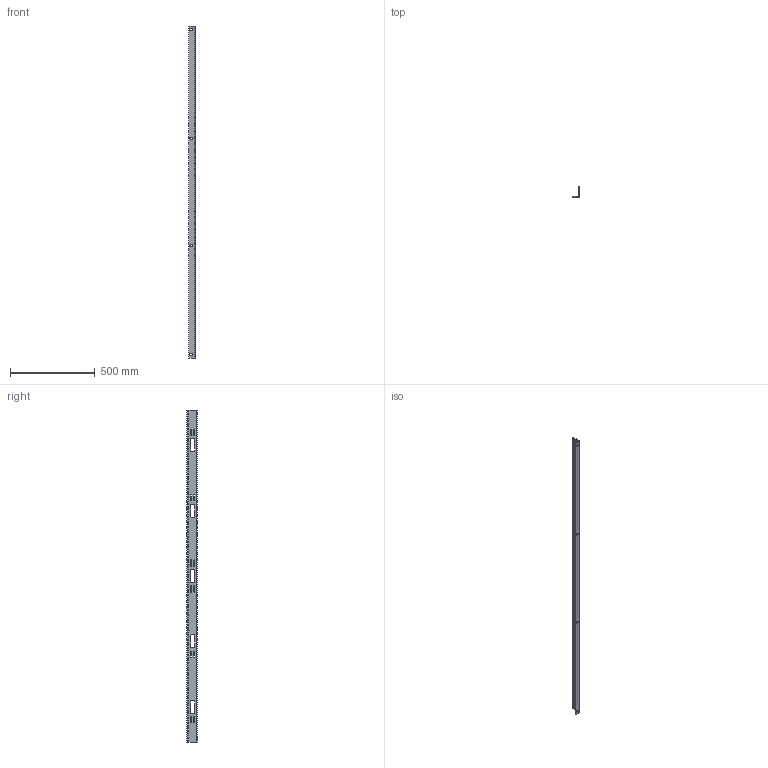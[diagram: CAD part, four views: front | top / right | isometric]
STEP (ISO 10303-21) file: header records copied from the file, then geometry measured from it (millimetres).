
FILE_DESCRIPTION(/* description */ ('Unknown'),/* implementation_level */ '2;1');
FILE_NAME(/* name */ 'C4PR7723TZPL',/* time_stamp */ '2021-05-11T08:12:59-04:00',/* author */ ('Unknown'),/* organization */ ('Unknown'),/* preprocessor_version */ 'ST-DEVELOPER v16.7',/* originating_system */ 'Solid Edge',/* authorisation */ 'Unknown');
FILE_SCHEMA (('AUTOMOTIVE_DESIGN {1 0 10303 214 3 1 1}'));
Length unit declared in the file: millimetre
Products named in the file (1): COM57507-15
Bounding box: 38.1 x 60.22 x 1955.8 mm (x, y, z)
Volume: 534543.5 mm3; surface area: 362603.1 mm2
Topology: 1 solids, 1 shells, 246 faces, 864 edges, 620 vertices
Faces by surface type: cylinder 186, plane 60
Full cylindrical faces by diameter (mm): 4.496 x132
Entity records: 8430 total; most frequent: DIRECTION 1466, CARTESIAN_POINT 1335, ORIENTED_EDGE 1200, EDGE_LOOP 684, FACE_BOUND 684, AXIS2_PLACEMENT_3D 619, EDGE_CURVE 600, VERTEX_POINT 488
